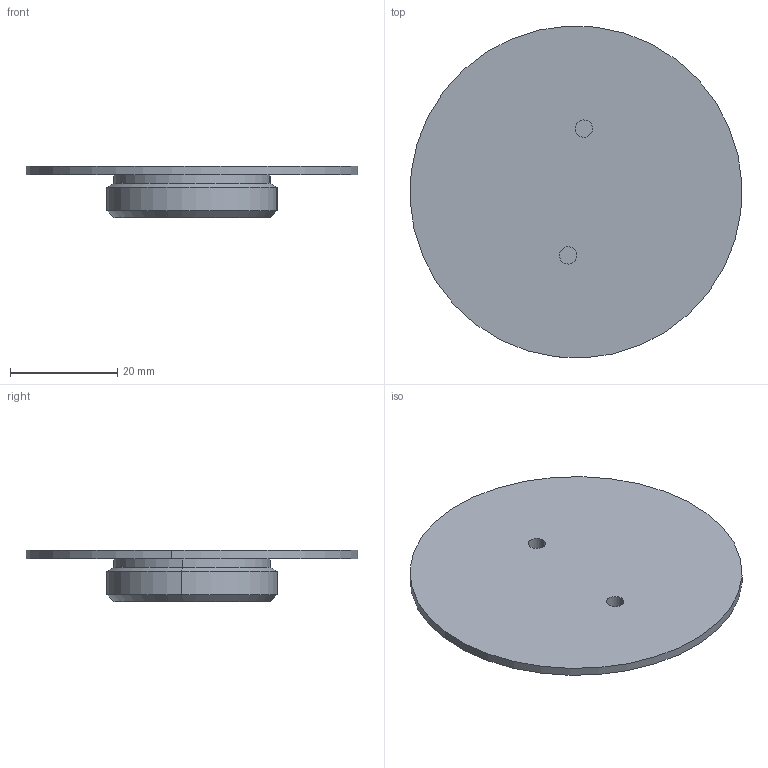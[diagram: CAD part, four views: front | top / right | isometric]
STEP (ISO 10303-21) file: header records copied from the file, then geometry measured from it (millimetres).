
FILE_DESCRIPTION (( 'STEP AP214' ), '1' );
FILE_NAME ('CAP INSTRUCTORS_REV A.STEP', '2019-09-19T01:37:54', ( 'HP z420' ), ( '' ), 'SwSTEP 2.0', 'SolidWorks 2018', '' );
FILE_SCHEMA (( 'AUTOMOTIVE_DESIGN' ));
Length unit declared in the file: inch
Products named in the file (2): Cap; CAP INSTRUCTORS_REV A
Assembly tree (1 placements, depth 2):
  CAP INSTRUCTORS_REV A
    Cap
Bounding box: 61.83 x 61.83 x 9.53 mm (x, y, z)
Volume: 8704.3 mm3; surface area: 7703.9 mm2
Topology: 1 solids, 1 shells, 22 faces, 42 edges, 26 vertices
Faces by surface type: cylinder 12, plane 6, cone 4
Entity records: 638 total; most frequent: DIRECTION 120, CARTESIAN_POINT 94, ORIENTED_EDGE 84, AXIS2_PLACEMENT_3D 52, EDGE_CURVE 42, EDGE_LOOP 26, CIRCLE 26, VERTEX_POINT 26
